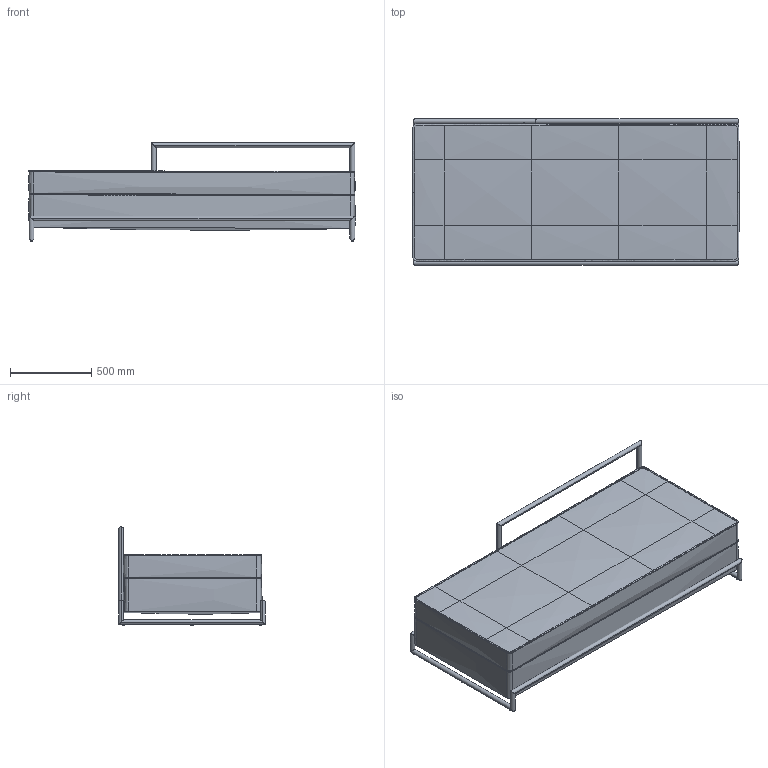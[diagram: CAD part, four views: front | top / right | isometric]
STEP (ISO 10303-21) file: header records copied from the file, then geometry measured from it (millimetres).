
FILE_DESCRIPTION(/* description */ (''),/* implementation_level */ '2;1');
FILE_NAME(/* name */ 'EG_DayBed-Grand_3D_20230703',/* time_stamp */ '2023-08-10T10:47:34+02:00',/* author */ (''),/* organization */ (''),/* preprocessor_version */ 'ST-DEVELOPER v16.5',/* originating_system */ 'Rhino 7.32',/* authorisation */ '');
FILE_SCHEMA (('CONFIG_CONTROL_DESIGN'));
Length unit declared in the file: millimetre
Products named in the file (1): Document
Bounding box: 2008.05 x 900 x 605 mm (x, y, z)
Volume: 6229458.2 mm3; surface area: 9814062.1 mm2
Topology: 3 solids, 23 shells, 96 faces, 249 edges, 167 vertices
Faces by surface type: bspline 42, cylinder 33, plane 21
Entity records: 10616 total; most frequent: CARTESIAN_POINT 9013, ORIENTED_EDGE 386, EDGE_CURVE 249, B_SPLINE_CURVE_WITH_KNOTS 172, VERTEX_POINT 167, EDGE_LOOP 102, ADVANCED_FACE 96, FACE_OUTER_BOUND 96
